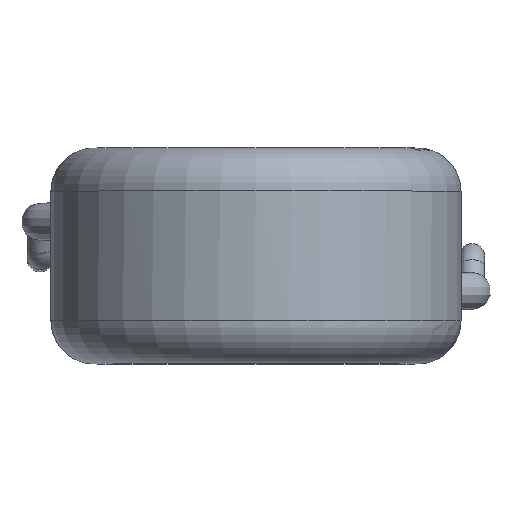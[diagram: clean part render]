
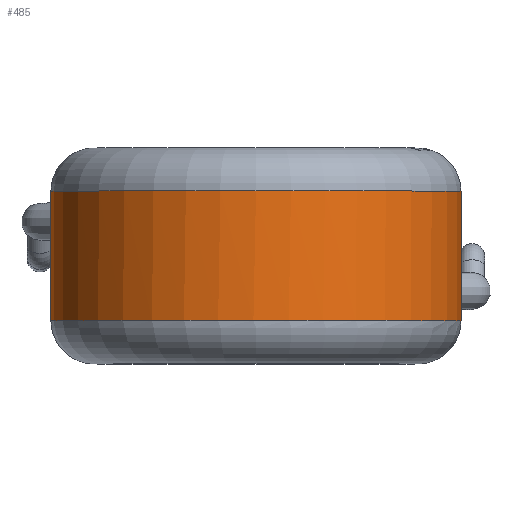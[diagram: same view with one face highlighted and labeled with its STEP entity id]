
A CAD part, top view. The second image highlights one B-rep face of the part: STEP entity #485.
In plain terms, the highlighted cylindrical face has radius 4.75 mm (diameter 9.5 mm), a full revolution.
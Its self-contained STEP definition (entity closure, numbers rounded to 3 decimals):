
#48=LINE('',#2302,#53);
#53=VECTOR('',#676,4.75);
#62=CYLINDRICAL_SURFACE('',#559,4.75);
#86=FACE_OUTER_BOUND('',#117,.T.);
#117=EDGE_LOOP('',(#412,#413,#414,#415,#416,#417,#418,#419,#420,#421,#422,
#423));
#145=CIRCLE('',#543,4.75);
#146=CIRCLE('',#544,4.75);
#147=CIRCLE('',#545,4.75);
#153=CIRCLE('',#552,4.75);
#154=CIRCLE('',#553,4.75);
#155=CIRCLE('',#554,4.75);
#177=B_SPLINE_CURVE_WITH_KNOTS('',3,(#966,#967,#968,#969,#970,#971,#972,
#973,#974,#975,#976,#977,#978,#979,#980,#981,#982,#983,#984,#985,#986,#987,
#988,#989,#990),.UNSPECIFIED.,.F.,.F.,(4,3,3,3,3,3,3,3,4),(-0.127,
-0.1,-0.091,-0.073,-0.055,
-0.037,-0.019,-0.001,0.),
 .UNSPECIFIED.);
#178=B_SPLINE_CURVE_WITH_KNOTS('',3,(#991,#992,#993,#994,#995,#996,#997,
#998,#999),.UNSPECIFIED.,.F.,.F.,(4,1,1,1,1,1,4),(-0.287,-0.27,
-0.233,-0.215,-0.197,-0.179,
-0.161),.UNSPECIFIED.);
#186=B_SPLINE_CURVE_WITH_KNOTS('',3,(#1648,#1649,#1650,#1651,#1652,#1653,
#1654,#1655,#1656,#1657,#1658,#1659,#1660,#1661,#1662,#1663,#1664,#1665,
#1666,#1667,#1668,#1669,#1670,#1671,#1672),.UNSPECIFIED.,.F.,.F.,(4,3,3,
3,3,3,3,3,4),(-0.144,-0.117,-0.108,
-0.09,-0.072,-0.054,-0.036,
-0.018,-0.017),.UNSPECIFIED.);
#187=B_SPLINE_CURVE_WITH_KNOTS('',3,(#1673,#1674,#1675,#1676,#1677,#1678,
#1679,#1680,#1681),.UNSPECIFIED.,.F.,.F.,(4,1,1,1,1,1,4),(-0.304,
-0.286,-0.25,-0.232,-0.214,
-0.196,-0.178),.UNSPECIFIED.);
#207=VERTEX_POINT('',#892);
#212=VERTEX_POINT('',#963);
#213=VERTEX_POINT('',#965);
#217=VERTEX_POINT('',#1487);
#218=VERTEX_POINT('',#1490);
#219=VERTEX_POINT('',#1574);
#224=VERTEX_POINT('',#1645);
#225=VERTEX_POINT('',#1647);
#229=VERTEX_POINT('',#2169);
#230=VERTEX_POINT('',#2172);
#266=EDGE_CURVE('',#212,#213,#177,.T.);
#267=EDGE_CURVE('',#213,#207,#178,.T.);
#274=EDGE_CURVE('',#217,#212,#145,.T.);
#275=EDGE_CURVE('',#207,#218,#146,.T.);
#276=EDGE_CURVE('',#218,#217,#147,.T.);
#283=EDGE_CURVE('',#224,#225,#186,.T.);
#284=EDGE_CURVE('',#225,#219,#187,.T.);
#291=EDGE_CURVE('',#229,#224,#153,.T.);
#292=EDGE_CURVE('',#219,#230,#154,.T.);
#293=EDGE_CURVE('',#230,#229,#155,.T.);
#298=EDGE_CURVE('',#230,#218,#48,.T.);
#412=ORIENTED_EDGE('',*,*,#283,.F.);
#413=ORIENTED_EDGE('',*,*,#291,.F.);
#414=ORIENTED_EDGE('',*,*,#293,.F.);
#415=ORIENTED_EDGE('',*,*,#298,.T.);
#416=ORIENTED_EDGE('',*,*,#275,.F.);
#417=ORIENTED_EDGE('',*,*,#267,.F.);
#418=ORIENTED_EDGE('',*,*,#266,.F.);
#419=ORIENTED_EDGE('',*,*,#274,.F.);
#420=ORIENTED_EDGE('',*,*,#276,.F.);
#421=ORIENTED_EDGE('',*,*,#298,.F.);
#422=ORIENTED_EDGE('',*,*,#292,.F.);
#423=ORIENTED_EDGE('',*,*,#284,.F.);
#485=ADVANCED_FACE('',(#86),#62,.T.);
#543=AXIS2_PLACEMENT_3D('',#1489,#642,#643);
#544=AXIS2_PLACEMENT_3D('',#1491,#644,#645);
#545=AXIS2_PLACEMENT_3D('',#1492,#646,#647);
#552=AXIS2_PLACEMENT_3D('',#2171,#660,#661);
#553=AXIS2_PLACEMENT_3D('',#2173,#662,#663);
#554=AXIS2_PLACEMENT_3D('',#2174,#664,#665);
#559=AXIS2_PLACEMENT_3D('',#2301,#674,#675);
#642=DIRECTION('center_axis',(0.,1.,0.));
#643=DIRECTION('ref_axis',(-1.,0.,0.));
#644=DIRECTION('center_axis',(0.,1.,0.));
#645=DIRECTION('ref_axis',(-1.,0.,0.));
#646=DIRECTION('center_axis',(0.,1.,0.));
#647=DIRECTION('ref_axis',(-1.,0.,0.));
#660=DIRECTION('center_axis',(0.,-1.,0.));
#661=DIRECTION('ref_axis',(-1.,0.,0.));
#662=DIRECTION('center_axis',(0.,-1.,0.));
#663=DIRECTION('ref_axis',(-1.,0.,0.));
#664=DIRECTION('center_axis',(0.,-1.,0.));
#665=DIRECTION('ref_axis',(-1.,0.,0.));
#674=DIRECTION('center_axis',(0.,-1.,0.));
#675=DIRECTION('ref_axis',(1.,0.,0.));
#676=DIRECTION('',(0.,1.,0.));
#892=CARTESIAN_POINT('',(-3.731,1.5,-2.94));
#963=CARTESIAN_POINT('',(-3.393,1.5,-3.324));
#965=CARTESIAN_POINT('',(-3.575,0.049,-3.128));
#966=CARTESIAN_POINT('Ctrl Pts',(-3.393,1.5,-3.324));
#967=CARTESIAN_POINT('Ctrl Pts',(-3.302,1.446,-3.417));
#968=CARTESIAN_POINT('Ctrl Pts',(-3.218,1.349,-3.495));
#969=CARTESIAN_POINT('Ctrl Pts',(-3.158,1.227,-3.548));
#970=CARTESIAN_POINT('Ctrl Pts',(-3.138,1.186,-3.566));
#971=CARTESIAN_POINT('Ctrl Pts',(-3.121,1.143,-3.581));
#972=CARTESIAN_POINT('Ctrl Pts',(-3.107,1.097,-3.593));
#973=CARTESIAN_POINT('Ctrl Pts',(-3.079,1.006,-3.617));
#974=CARTESIAN_POINT('Ctrl Pts',(-3.064,0.907,-3.63));
#975=CARTESIAN_POINT('Ctrl Pts',(-3.063,0.808,-3.63));
#976=CARTESIAN_POINT('Ctrl Pts',(-3.062,0.708,-3.631));
#977=CARTESIAN_POINT('Ctrl Pts',(-3.076,0.609,-3.62));
#978=CARTESIAN_POINT('Ctrl Pts',(-3.103,0.517,-3.597));
#979=CARTESIAN_POINT('Ctrl Pts',(-3.129,0.425,-3.574));
#980=CARTESIAN_POINT('Ctrl Pts',(-3.169,0.341,-3.539));
#981=CARTESIAN_POINT('Ctrl Pts',(-3.217,0.27,-3.494));
#982=CARTESIAN_POINT('Ctrl Pts',(-3.266,0.2,-3.45));
#983=CARTESIAN_POINT('Ctrl Pts',(-3.323,0.143,-3.395));
#984=CARTESIAN_POINT('Ctrl Pts',(-3.384,0.106,-3.334));
#985=CARTESIAN_POINT('Ctrl Pts',(-3.444,0.068,-3.272));
#986=CARTESIAN_POINT('Ctrl Pts',(-3.508,0.049,-3.204));
#987=CARTESIAN_POINT('Ctrl Pts',(-3.57,0.049,-3.134));
#988=CARTESIAN_POINT('Ctrl Pts',(-3.571,0.049,-3.132));
#989=CARTESIAN_POINT('Ctrl Pts',(-3.573,0.049,-3.13));
#990=CARTESIAN_POINT('Ctrl Pts',(-3.575,0.049,-3.128));
#991=CARTESIAN_POINT('Ctrl Pts',(-3.575,0.049,-3.128));
#992=CARTESIAN_POINT('Ctrl Pts',(-3.635,0.051,-3.059));
#993=CARTESIAN_POINT('Ctrl Pts',(-3.811,0.113,-2.846));
#994=CARTESIAN_POINT('Ctrl Pts',(-3.969,0.413,-2.611));
#995=CARTESIAN_POINT('Ctrl Pts',(-4.006,0.812,-2.552));
#996=CARTESIAN_POINT('Ctrl Pts',(-3.973,1.109,-2.604));
#997=CARTESIAN_POINT('Ctrl Pts',(-3.88,1.356,-2.742));
#998=CARTESIAN_POINT('Ctrl Pts',(-3.785,1.464,-2.871));
#999=CARTESIAN_POINT('Ctrl Pts',(-3.731,1.5,-2.94));
#1487=CARTESIAN_POINT('',(0.,1.5,4.75));
#1489=CARTESIAN_POINT('Origin',(0.,1.5,0.));
#1490=CARTESIAN_POINT('',(-4.75,1.5,0.));
#1491=CARTESIAN_POINT('Origin',(0.,1.5,0.));
#1492=CARTESIAN_POINT('Origin',(0.,1.5,0.));
#1574=CARTESIAN_POINT('',(3.731,-1.5,-2.94));
#1645=CARTESIAN_POINT('',(3.393,-1.5,-3.324));
#1647=CARTESIAN_POINT('',(3.575,-0.049,-3.128));
#1648=CARTESIAN_POINT('Ctrl Pts',(3.393,-1.5,-3.324));
#1649=CARTESIAN_POINT('Ctrl Pts',(3.302,-1.446,-3.417));
#1650=CARTESIAN_POINT('Ctrl Pts',(3.218,-1.349,-3.495));
#1651=CARTESIAN_POINT('Ctrl Pts',(3.158,-1.227,-3.548));
#1652=CARTESIAN_POINT('Ctrl Pts',(3.138,-1.186,-3.566));
#1653=CARTESIAN_POINT('Ctrl Pts',(3.121,-1.143,-3.581));
#1654=CARTESIAN_POINT('Ctrl Pts',(3.107,-1.097,-3.593));
#1655=CARTESIAN_POINT('Ctrl Pts',(3.079,-1.006,-3.617));
#1656=CARTESIAN_POINT('Ctrl Pts',(3.064,-0.907,-3.63));
#1657=CARTESIAN_POINT('Ctrl Pts',(3.063,-0.808,-3.63));
#1658=CARTESIAN_POINT('Ctrl Pts',(3.062,-0.708,-3.631));
#1659=CARTESIAN_POINT('Ctrl Pts',(3.076,-0.609,-3.62));
#1660=CARTESIAN_POINT('Ctrl Pts',(3.103,-0.517,-3.597));
#1661=CARTESIAN_POINT('Ctrl Pts',(3.129,-0.425,-3.574));
#1662=CARTESIAN_POINT('Ctrl Pts',(3.169,-0.341,-3.539));
#1663=CARTESIAN_POINT('Ctrl Pts',(3.217,-0.27,-3.494));
#1664=CARTESIAN_POINT('Ctrl Pts',(3.266,-0.2,-3.45));
#1665=CARTESIAN_POINT('Ctrl Pts',(3.323,-0.143,-3.395));
#1666=CARTESIAN_POINT('Ctrl Pts',(3.384,-0.106,-3.334));
#1667=CARTESIAN_POINT('Ctrl Pts',(3.444,-0.068,
-3.272));
#1668=CARTESIAN_POINT('Ctrl Pts',(3.508,-0.049,
-3.204));
#1669=CARTESIAN_POINT('Ctrl Pts',(3.57,-0.049,
-3.134));
#1670=CARTESIAN_POINT('Ctrl Pts',(3.571,-0.049,-3.132));
#1671=CARTESIAN_POINT('Ctrl Pts',(3.573,-0.049,-3.13));
#1672=CARTESIAN_POINT('Ctrl Pts',(3.575,-0.049,
-3.128));
#1673=CARTESIAN_POINT('Ctrl Pts',(3.575,-0.049,
-3.128));
#1674=CARTESIAN_POINT('Ctrl Pts',(3.635,-0.051,
-3.059));
#1675=CARTESIAN_POINT('Ctrl Pts',(3.811,-0.113,-2.846));
#1676=CARTESIAN_POINT('Ctrl Pts',(3.969,-0.413,-2.611));
#1677=CARTESIAN_POINT('Ctrl Pts',(4.006,-0.812,-2.552));
#1678=CARTESIAN_POINT('Ctrl Pts',(3.973,-1.109,-2.604));
#1679=CARTESIAN_POINT('Ctrl Pts',(3.88,-1.356,-2.742));
#1680=CARTESIAN_POINT('Ctrl Pts',(3.785,-1.464,-2.871));
#1681=CARTESIAN_POINT('Ctrl Pts',(3.731,-1.5,-2.94));
#2169=CARTESIAN_POINT('',(0.,-1.5,-4.75));
#2171=CARTESIAN_POINT('Origin',(0.,-1.5,0.));
#2172=CARTESIAN_POINT('',(-4.75,-1.5,0.));
#2173=CARTESIAN_POINT('Origin',(0.,-1.5,0.));
#2174=CARTESIAN_POINT('Origin',(0.,-1.5,0.));
#2301=CARTESIAN_POINT('Origin',(0.,0.,
0.));
#2302=CARTESIAN_POINT('',(-4.75,0.,0.));
